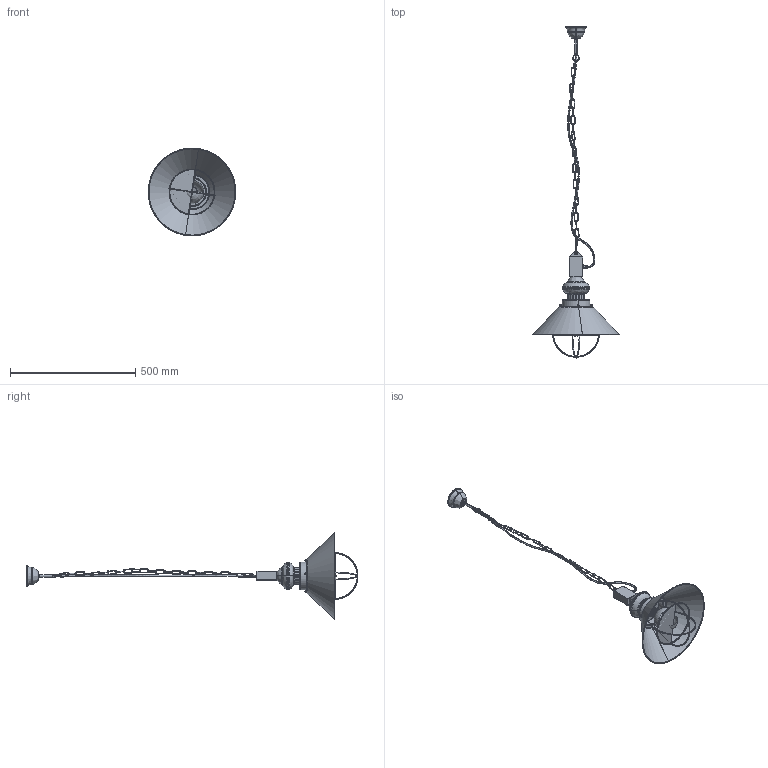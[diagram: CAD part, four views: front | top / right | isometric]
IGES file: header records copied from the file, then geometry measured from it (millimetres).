
Start section: SolidWorks IGES file using analytic representation for surfaces
Global section: file name: E:\3D lampy\Loft\Loft zwis\LOFT zwis.IGS; native system: SolidWorks 2016; preprocessor: SolidWorks 2016; author: Asia; date: 160922.102420; units: millimetre
Bounding box: 348.97 x 1322.99 x 349.04 mm (x, y, z)
Surface area: 500048.5 mm2 (no closed solid volume)
Topology: 0 solids, 0 shells, 1871 faces, 15473 edges, 15223 vertices
Faces by surface type: revolution 943, bspline 928
